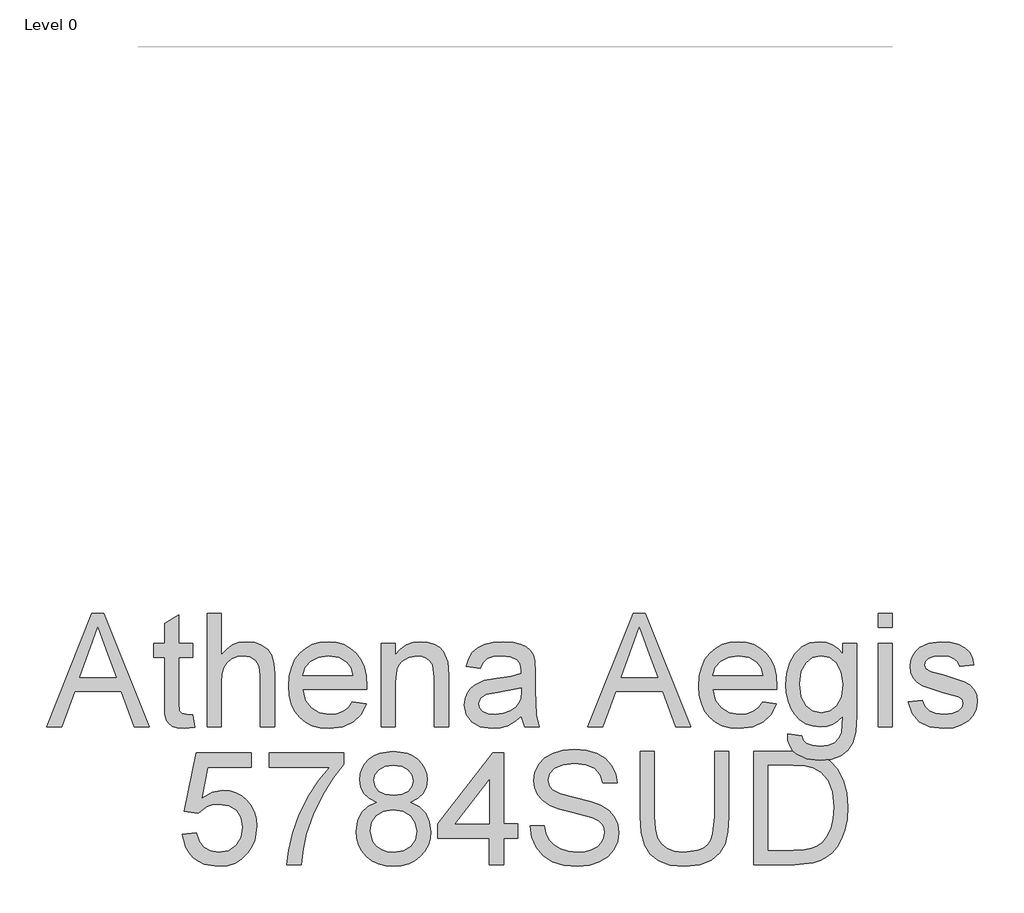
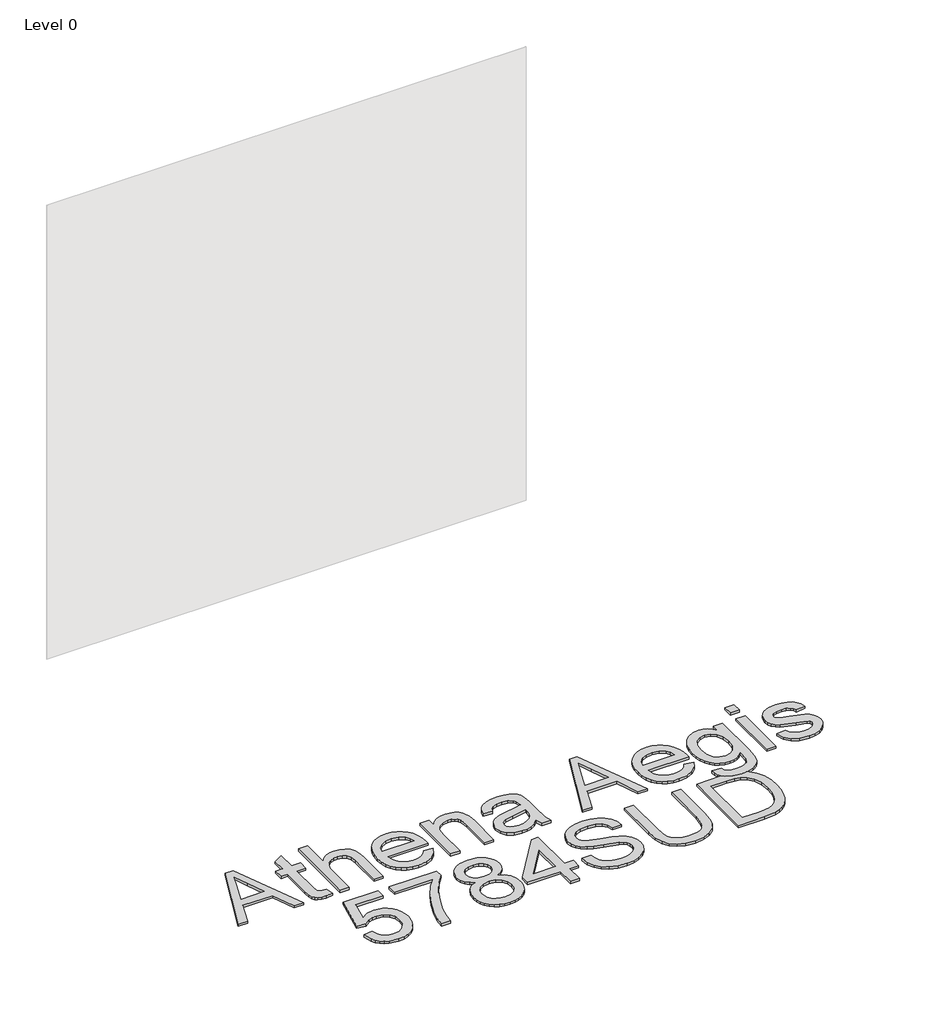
# One storey, part 10 of 29: 1 proxy.
"""IFC4 building model written with IfcOpenShell, lengths in millimetres."""

from ifc_helpers import new_model, si_unit, origin, origin_with_axes, place, context, project, spatial, polyline, outline, extrude, element, save

model = new_model("IFC4")

# Units and contexts
model_context = context("Model", 3, world=origin())
ifc_project = project(units=[si_unit("LENGTHUNIT", "METRE", prefix="MILLI")], contexts=[model_context])

# Site, building, storey
site = spatial("IfcSite", under=ifc_project)
building = spatial("IfcBuilding", under=site)
storey = spatial("IfcBuildingStorey", under=building, Name="Level 0", Elevation=0.0)

# Proxy
placement = place(None, origin())
element("IfcBuildingElementProxy", 1, Name="300mm Arial", ObjectType="300mm Arial", at=placement, inside=storey, context=model_context, shape_type="SweptSolid", body=[
    extrude(outline(polyline([(-5693.5841652, -7002.860494), (-5573.2867528, -6701.4915635), (-5541.2074428, -6701.4915635), (-5420.9100304, -7002.860494), (-5460.7148623, -7002.860494), (-5495.2221934, -6908.6827032), (-5619.3455786, -6908.6827032), (-5653.7793333, -7002.860494), (-5693.5841652, -7002.860494)]), holes=[polyline([(-5605.5132156, -6871.0115869), (-5508.98098, -6871.0115869), (-5536.1306713, -6796.9201531), (-5557.2470978, -6739.1626798), (-5576.0090796, -6790.44543), (-5605.5132156, -6871.0115869)])]), origin_with_axes(), (0.0, 0.0, 1.0), 10.0),
    extrude(outline(polyline([(-5305.3215075, -6971.4433716), (-5300.612618, -7003.96414), (-5328.7923788, -7007.5693835), (-5346.8737789, -7006.005885), (-5360.356654, -7001.3153896), (-5369.8847977, -6994.0865084), (-5376.1020034, -6984.9078526), (-5379.5233059, -6969.1441091), (-5380.6637401, -6942.1599648), (-5380.6637401, -6819.213802), (-5408.9170773, -6819.213802), (-5408.9170773, -6781.5426857), (-5380.6637401, -6781.5426857), (-5380.6637401, -6727.758338), (-5342.9926238, -6705.6118419), (-5342.9926238, -6781.5426857), (-5305.3215075, -6781.5426857), (-5305.3215075, -6819.213802), (-5342.9926238, -6819.213802), (-5342.9926238, -6941.0563188), (-5341.006061, -6960.4804881), (-5334.5681261, -6967.3598814), (-5321.7290445, -6969.8982672), (-5305.3215075, -6971.4433716)])), origin_with_axes(), (0.0, 0.0, 1.0), 10.0),
    extrude(outline(polyline([(-5267.6503912, -7002.860494), (-5267.6503912, -6701.4915635), (-5229.9792749, -6701.4915635), (-5229.9792749, -6812.2976205), (-5216.1423133, -6796.7821973), (-5200.6038976, -6785.6997522), (-5183.3640276, -6779.0502852), (-5164.4227033, -6776.8337961), (-5141.6692019, -6779.2526203), (-5122.1162739, -6786.5090926), (-5106.7204124, -6798.0329961), (-5096.4381106, -6813.2541137), (-5090.6439692, -6834.1682051), (-5088.7125887, -6862.7710302), (-5088.7125887, -7002.860494), (-5126.383705, -7002.860494), (-5126.383705, -6866.6705794), (-5129.3819433, -6843.0893435), (-5138.3766581, -6826.9393239), (-5152.8712087, -6817.6135153), (-5172.3689544, -6814.5049125), (-5188.2890478, -6816.6018398), (-5203.2342538, -6822.8926219), (-5215.613483, -6832.7702535), (-5223.8356456, -6845.6277292), (-5228.4433676, -6862.7158479), (-5229.9792749, -6885.2854083), (-5229.9792749, -7002.860494), (-5267.6503912, -7002.860494)])), origin_with_axes(), (0.0, 0.0, 1.0), 10.0),
    extrude(outline(polyline([(-4881.9629075, -6936.9360404), (-4845.0275551, -6941.64493), (-4858.3356863, -6969.4752029), (-4879.5716745, -6990.2789297), (-4908.2572731, -7003.2467701), (-4943.9142354, -7007.5693835), (-4967.2885377, -7005.7046817), (-4988.1152572, -7000.1105761), (-5006.3943938, -6990.7870668), (-5022.1259476, -6977.7341537), (-5034.7764897, -6961.3151204), (-5043.8125912, -6941.8932503), (-5049.2342521, -6919.4685435), (-5051.0414724, -6894.0409998), (-5049.215858, -6867.7512327), (-5043.7390148, -6844.5792656), (-5034.6109428, -6824.5250983), (-5021.831642, -6807.5887309), (-5006.1414749, -6794.133447), (-4988.2808041, -6784.5225298), (-4968.2496294, -6778.7559796), (-4946.047951, -6776.8337961), (-4924.5613432, -6778.751381), (-4905.1302761, -6784.5041357), (-4887.7547496, -6794.0920602), (-4872.4347638, -6807.5151545), (-4859.9290752, -6824.4147337), (-4850.9964405, -6844.4321128), (-4845.6368597, -6867.5672917), (-4843.8503328, -6893.8202706), (-4844.0710619, -6903.9738137), (-5013.3703561, -6903.9738137), (-5006.8496478, -6932.1719686), (-4991.7021066, -6952.902119), (-4969.8407191, -6965.6492302), (-4943.1784715, -6969.8982672), (-4923.1289027, -6967.9300985), (-4906.2431191, -6962.0255925), (-4892.5211207, -6951.8168672), (-4881.9629075, -6936.9360404)]), holes=[polyline([(-5013.3703561, -6866.3026974), (-4881.5214491, -6866.3026974), (-4886.6166147, -6846.4002814), (-4896.6046109, -6832.1632482), (-4918.567166, -6818.9194964), (-4946.1951038, -6814.5049125), (-4971.5881585, -6818.0273826), (-4992.5850234, -6828.5947929), (-5007.1807416, -6845.0667092), (-5013.3703561, -6866.3026974)])]), origin_with_axes(), (0.0, 0.0, 1.0), 10.0),
    extrude(outline(polyline([(-4806.1792164, -7002.860494), (-4806.1792164, -6781.5426857), (-4768.5081001, -6781.5426857), (-4768.5081001, -6812.4447733), (-4755.4206982, -6796.8649708), (-4739.7029399, -6785.7365404), (-4721.3548254, -6779.0594822), (-4700.3763546, -6776.8337961), (-4681.8075109, -6778.6272209), (-4664.8021657, -6784.0074951), (-4650.6203148, -6792.303234), (-4640.521954, -6802.8430532), (-4629.2279768, -6830.5445674), (-4627.241414, -6866.964885), (-4627.241414, -7002.860494), (-4664.9125303, -7002.860494), (-4664.9125303, -6872.0416565), (-4669.2535378, -6838.7115477), (-4675.2592114, -6828.7879309), (-4684.594217, -6821.0900002), (-4696.5595789, -6816.1511844), (-4710.4563213, -6814.5049125), (-4732.520044, -6818.2021265), (-4751.328011, -6829.2937687), (-4758.8443, -6838.3482643), (-4764.2130778, -6850.7228949), (-4768.5081001, -6885.4325611), (-4768.5081001, -7002.860494), (-4806.1792164, -7002.860494)])), origin_with_axes(), (0.0, 0.0, 1.0), 10.0),
    extrude(outline(polyline([(-4434.1769429, -6974.6071568), (-4452.1755695, -6990.0398064), (-4470.707625, -7000.1381672), (-4490.1961737, -7005.7115794), (-4511.0642799, -7007.5693835), (-4542.5457817, -7003.0996173), (-4565.7683326, -6989.6903186), (-4580.0881393, -6969.3280501), (-4584.8614081, -6943.9993748), (-4583.0587864, -6928.3827841), (-4577.650921, -6914.2009331), (-4569.3091968, -6902.0608273), (-4558.7049983, -6892.5694718), (-4532.3278592, -6880.2086368), (-4499.7335145, -6874.5432541), (-4461.2162696, -6868.5835657), (-4434.3976721, -6861.5938078), (-4434.1769429, -6853.2060983), (-4436.770511, -6836.3938912), (-4444.5512152, -6825.3942195), (-4461.9520336, -6817.2272392), (-4486.195457, -6814.5049125), (-4508.6362587, -6816.3167313), (-4524.3080317, -6821.7521878), (-4534.9950037, -6831.8045633), (-4542.4814023, -6847.4671392), (-4580.1525186, -6842.7582497), (-4573.6134161, -6822.156858), (-4563.8553462, -6805.9700502), (-4549.9678009, -6793.590821), (-4531.0402723, -6784.4121652), (-4507.8912977, -6778.7283884), (-4481.3394147, -6776.8337961), (-4455.8727836, -6778.5076592), (-4435.6852591, -6783.5292485), (-4420.4641416, -6791.0800264), (-4409.8967312, -6800.3414556), (-4402.8885792, -6811.7917827), (-4398.3452366, -6825.9092543), (-4396.5058266, -6858.8714811), (-4396.5058266, -6905.7396473), (-4394.5928402, -6971.1858542), (-4387.0880475, -7002.860494), (-4424.7591638, -7002.860494), (-4434.1769429, -6974.6071568)]), holes=[polyline([(-4434.1769429, -6899.2649241), (-4494.9510485, -6910.8164188), (-4527.3614523, -6916.9232599), (-4542.0399439, -6926.8560738), (-4547.1902918, -6941.3506244), (-4544.3851916, -6952.5526311), (-4535.969891, -6961.7312869), (-4522.1283309, -6967.8565221), (-4503.0444524, -6969.8982672), (-4482.8109427, -6967.64499), (-4464.9318777, -6960.8851583), (-4450.4373271, -6950.9247533), (-4440.3573604, -6939.069756), (-4435.8875942, -6926.8560738), (-4434.3976721, -6909.933502), (-4434.1769429, -6899.2649241)])]), origin_with_axes(), (0.0, 0.0, 1.0), 10.0),
    extrude(outline(polyline([(-4257.372856, -7002.860494), (-4137.0754436, -6701.4915635), (-4104.9961336, -6701.4915635), (-3984.6987212, -7002.860494), (-4024.5035531, -7002.860494), (-4059.0108842, -6908.6827032), (-4183.1342694, -6908.6827032), (-4217.5680242, -7002.860494), (-4257.372856, -7002.860494)]), holes=[polyline([(-4169.3019064, -6871.0115869), (-4072.7696709, -6871.0115869), (-4099.9193621, -6796.9201531), (-4121.0357886, -6739.1626798), (-4139.7977704, -6790.44543), (-4169.3019064, -6871.0115869)])]), origin_with_axes(), (0.0, 0.0, 1.0), 10.0),
    extrude(outline(polyline([(-3794.2094241, -6936.9360404), (-3757.2740718, -6941.64493), (-3770.582203, -6969.4752029), (-3791.8181911, -6990.2789297), (-3820.5037897, -7003.2467701), (-3856.1607521, -7007.5693835), (-3879.5350544, -7005.7046817), (-3900.3617738, -7000.1105761), (-3918.6409105, -6990.7870668), (-3934.3724643, -6977.7341537), (-3947.0230064, -6961.3151204), (-3956.0591079, -6941.8932503), (-3961.4807688, -6919.4685435), (-3963.2879891, -6894.0409998), (-3961.4623747, -6867.7512327), (-3955.9855315, -6844.5792656), (-3946.8574595, -6824.5250983), (-3934.0781587, -6807.5887309), (-3918.3879916, -6794.133447), (-3900.5273207, -6784.5225298), (-3880.4961461, -6778.7559796), (-3858.2944677, -6776.8337961), (-3836.8078599, -6778.751381), (-3817.3767928, -6784.5041357), (-3800.0012663, -6794.0920602), (-3784.6812804, -6807.5151545), (-3772.1755919, -6824.4147337), (-3763.2429572, -6844.4321128), (-3757.8833764, -6867.5672917), (-3756.0968494, -6893.8202706), (-3756.3175786, -6903.9738137), (-3925.6168728, -6903.9738137), (-3919.0961644, -6932.1719686), (-3903.9486233, -6952.902119), (-3882.0872357, -6965.6492302), (-3855.4249881, -6969.8982672), (-3835.3754194, -6967.9300985), (-3818.4896358, -6962.0255925), (-3804.7676374, -6951.8168672), (-3794.2094241, -6936.9360404)]), holes=[polyline([(-3925.6168728, -6866.3026974), (-3793.7679657, -6866.3026974), (-3798.8631314, -6846.4002814), (-3808.8511275, -6832.1632482), (-3830.8136826, -6818.9194964), (-3858.4416205, -6814.5049125), (-3883.8346752, -6818.0273826), (-3904.8315401, -6828.5947929), (-3919.4272582, -6845.0667092), (-3925.6168728, -6866.3026974)])]), origin_with_axes(), (0.0, 0.0, 1.0), 10.0),
    extrude(outline(polyline([(-3727.8435122, -7021.6960521), (-3690.1723959, -7026.4049417), (-3686.0153293, -7038.1771655), (-3677.9587136, -7046.2705694), (-3662.1213937, -7052.5613515), (-3641.3912433, -7054.6582789), (-3619.2815354, -7052.28544), (-3602.8372102, -7045.1669234), (-3591.4328684, -7033.7625816), (-3584.4431105, -7018.532267), (-3581.8679365, -6974.6071568), (-3594.4035155, -6986.9679918), (-3608.3922284, -6995.7971597), (-3623.8340751, -7001.0946604), (-3640.7290557, -7002.860494), (-3661.3833305, -7000.8049533), (-3679.5681974, -6994.6383314), (-3695.2836563, -6984.3606281), (-3708.5297074, -6969.9718436), (-3719.0396362, -6952.708981), (-3726.5467282, -6933.8090435), (-3731.0509833, -6913.2720311), (-3732.5524017, -6891.0979438), (-3729.8576661, -6860.6832999), (-3721.7734593, -6832.7150712), (-3708.5848897, -6809.0142737), (-3690.5770661, -6791.4019232), (-3668.3661906, -6780.4758279), (-3642.5684657, -6776.8337961), (-3624.9515167, -6778.8939353), (-3608.9624454, -6785.0743528), (-3594.6012521, -6795.3750487), (-3581.8679365, -6809.7960229), (-3581.8679365, -6781.5426857), (-3544.1968202, -6781.5426857), (-3544.1968202, -6972.620594), (-3546.7719942, -7016.7388422), (-3554.4975161, -7045.7923228), (-3567.8056472, -7065.0601423), (-3587.128649, -7079.8214074), (-3612.0434572, -7089.2023982), (-3642.1270073, -7092.3293952), (-3677.1769644, -7087.9240083), (-3704.7773111, -7074.7078476), (-3715.1722767, -7064.7865301), (-3722.4816321, -7052.644125), (-3726.7053773, -7038.2806323), (-3727.8435122, -7021.6960521)]), holes=[polyline([(-3694.8812854, -6888.5227699), (-3690.8621746, -6923.0760863), (-3678.8048422, -6946.8320661), (-3660.6774569, -6960.6000498), (-3638.4481874, -6965.1893777), (-3616.3844647, -6960.6276409), (-3598.1651089, -6946.9424307), (-3585.9422296, -6923.4899535), (-3581.8679365, -6889.6264159), (-3586.0617912, -6856.9676917), (-3598.6433555, -6833.4508352), (-3617.1294257, -6819.2413931), (-3639.0367985, -6814.5049125), (-3660.5486982, -6819.1678167), (-3678.584113, -6833.1565296), (-3690.8069923, -6856.3238983), (-3694.8812854, -6888.5227699)])]), origin_with_axes(), (0.0, 0.0, 1.0), 10.0),
    extrude(outline(polyline([(-3487.6901457, -7002.860494), (-3487.6901457, -6781.5426857), (-3450.0190294, -6781.5426857), (-3450.0190294, -7002.860494), (-3487.6901457, -7002.860494)])), origin_with_axes(), (0.0, 0.0, 1.0), 10.0),
    extrude(outline(polyline([(-3487.6901457, -6739.1626798), (-3487.6901457, -6701.4915635), (-3450.0190294, -6701.4915635), (-3450.0190294, -6739.1626798), (-3487.6901457, -6739.1626798)])), origin_with_axes(), (0.0, 0.0, 1.0), 10.0),
    extrude(outline(polyline([(-3407.6390236, -6936.9360404), (-3369.9679073, -6932.2271509), (-3364.0266131, -6948.3403823), (-3352.5303007, -6960.1861825), (-3335.4053938, -6967.470246), (-3312.578316, -6969.8982672), (-3290.0271497, -6967.6725811), (-3274.1714357, -6960.9955229), (-3264.7904449, -6951.3202265), (-3261.6634479, -6940.0998256), (-3264.808839, -6930.4981055), (-3274.2450121, -6923.1772538), (-3313.0197744, -6912.4350996), (-3369.7471781, -6894.0042116), (-3384.1037729, -6884.7427824), (-3394.5056364, -6872.4831149), (-3400.8240096, -6858.0069584), (-3402.930134, -6842.0960621), (-3401.2378769, -6827.5003439), (-3396.1611053, -6814.0266659), (-3388.1596719, -6802.2084568), (-3377.6934292, -6792.5791455), (-3353.7443113, -6781.4323211), (-3321.3339075, -6776.8337961), (-3296.8145725, -6778.6824032), (-3275.4958109, -6784.2282242), (-3258.3525099, -6792.9286334), (-3246.3595569, -6804.2410048), (-3238.4133058, -6819.0022698), (-3233.4101107, -6838.0493601), (-3271.081227, -6842.7582497), (-3275.8361018, -6830.9032524), (-3285.2446838, -6821.972917), (-3299.3989436, -6816.3719136), (-3318.3908516, -6814.5049125), (-3340.0223129, -6816.2891401), (-3354.4432871, -6821.6418232), (-3362.5550851, -6829.3673451), (-3365.2590177, -6838.2700893), (-3360.7708574, -6849.2329728), (-3346.7177652, -6857.5471059), (-3314.2705732, -6865.5669334), (-3258.9779093, -6883.2988455), (-3244.3729941, -6891.7785255), (-3233.2997461, -6903.3852025), (-3226.3191852, -6918.1556646), (-3223.9923316, -6936.1267001), (-3226.7238554, -6954.7047408), (-3234.9184268, -6972.1791356), (-3248.2633462, -6987.1795239), (-3266.4459138, -6998.3355454), (-3288.4084689, -7005.260924), (-3313.0933508, -7007.5693835), (-3351.0771668, -7003.1180114), (-3378.7970752, -6989.763895), (-3397.3015395, -6967.654187), (-3407.6390236, -6936.9360404)])), origin_with_axes(), (0.0, 0.0, 1.0), 10.0),
    extrude(outline(polyline([(-5333.5748447, -7288.7338254), (-5295.9037284, -7284.0249358), (-5288.9875469, -7306.6404815), (-5276.9210175, -7322.8364863), (-5259.7593224, -7332.5761621), (-5237.557644, -7335.8227207), (-5210.5551055, -7331.3069693), (-5190.3215958, -7317.7597148), (-5177.6848493, -7296.7444558), (-5173.4726004, -7269.8246908), (-5177.4181348, -7244.4776213), (-5189.254738, -7225.0902402), (-5209.0743805, -7212.7845875), (-5236.9690328, -7208.6827032), (-5255.2435709, -7210.3197781), (-5270.0416242, -7215.2310027), (-5291.1948389, -7232.2271509), (-5328.8659552, -7227.5182614), (-5295.9037284, -7072.1249066), (-5149.9281527, -7072.1249066), (-5149.9281527, -7109.7960229), (-5265.4430992, -7109.7960229), (-5281.5563306, -7192.790201), (-5254.6457627, -7176.4562404), (-5226.4476077, -7171.0115869), (-5208.1017925, -7172.6992456), (-5191.2504978, -7177.7622215), (-5175.8937238, -7186.2005148), (-5162.0314704, -7198.0141254), (-5150.5558514, -7212.4810848), (-5142.3589807, -7228.8794248), (-5137.4408583, -7247.2091452), (-5135.8014841, -7267.470246), (-5141.7059901, -7305.1413624), (-5149.0866227, -7321.9351754), (-5159.4195082, -7337.3678251), (-5175.0728871, -7353.1729553), (-5193.3382282, -7364.4623341), (-5214.2155314, -7371.2359613), (-5237.7047968, -7373.4938371), (-5274.7045285, -7367.6904986), (-5290.3831992, -7360.4363255), (-5304.1810733, -7350.2804832), (-5315.6612908, -7337.7288093), (-5324.3869919, -7323.2871418), (-5333.5748447, -7288.7338254)])), origin_with_axes(), (0.0, 0.0, 1.0), 10.0),
    extrude(outline(polyline([(-5102.8392574, -7109.7960229), (-5102.8392574, -7072.1249066), (-4905.0658967, -7072.1249066), (-4905.0658967, -7102.5855358), (-4933.2548546, -7138.2608923), (-4961.167901, -7183.6299393), (-4985.7884035, -7234.5540045), (-5004.0997299, -7286.8944154), (-5013.0760505, -7326.0554538), (-5018.0792457, -7368.7849475), (-5055.750362, -7368.7849475), (-5051.6760689, -7329.9550029), (-5040.7775648, -7283.8042066), (-5023.3491552, -7234.8850983), (-4999.6851459, -7187.7502177), (-4972.0572081, -7145.1402856), (-4942.7370131, -7109.7960229), (-5102.8392574, -7109.7960229)])), origin_with_axes(), (0.0, 0.0, 1.0), 10.0),
    extrude(outline(polyline([(-4817.2156763, -7202.7965913), (-4837.3848067, -7192.8637774), (-4851.5390665, -7179.3992964), (-4859.8991848, -7162.6790597), (-4862.6858909, -7142.9789789), (-4861.1683777, -7127.6153071), (-4856.615838, -7113.5300252), (-4849.0282718, -7100.7231332), (-4838.4056792, -7089.1946312), (-4825.2584964, -7079.6664875), (-4810.0971597, -7072.8606706), (-4773.7320245, -7067.4160171), (-4737.1461601, -7072.9894293), (-4721.8192764, -7079.9561946), (-4708.4697585, -7089.709666), (-4697.6540279, -7101.4634957), (-4689.928506, -7114.4313361), (-4685.2931928, -7128.613187), (-4683.7480885, -7144.0090485), (-4686.4980064, -7163.0745329), (-4694.7477601, -7179.509661), (-4708.5893202, -7192.8913686), (-4728.1146571, -7202.7965913), (-4704.9288943, -7214.7435591), (-4688.0523078, -7232.3375155), (-4677.760809, -7254.732332), (-4674.3303094, -7281.0818799), (-4676.0317636, -7299.8714528), (-4681.1361263, -7317.0975272), (-4689.6433974, -7332.7601031), (-4701.553577, -7346.8591806), (-4716.2412657, -7358.5118428), (-4733.081064, -7366.8351729), (-4752.072972, -7371.829171), (-4773.2169897, -7373.4938371), (-4794.3610074, -7371.8222732), (-4813.3529154, -7366.8075818), (-4830.1927137, -7358.4497627), (-4844.8804023, -7346.748816), (-4856.7905819, -7332.5508703), (-4865.2978531, -7316.702054), (-4870.4022158, -7299.2023674), (-4872.10367, -7280.0518103), (-4868.5352146, -7252.6813898), (-4857.8298486, -7230.1670117), (-4840.5393948, -7213.2812282), (-4817.2156763, -7202.7965913)]), holes=[polyline([(-4825.0147746, -7144.0826249), (-4821.6762455, -7160.52695), (-4811.6606582, -7173.6603373), (-4795.2623182, -7182.268776), (-4772.7755313, -7185.1382555), (-4750.8129762, -7182.2871701), (-4734.6629566, -7173.7339137), (-4724.7301427, -7161.0419848), (-4721.4192048, -7145.774882), (-4724.8405073, -7129.9283651), (-4735.104415, -7116.822569), (-4751.4751638, -7108.0209923), (-4773.2169897, -7105.0871334), (-4795.0967713, -7107.9566129), (-4811.439929, -7116.5650516), (-4821.6210632, -7129.1834041), (-4825.0147746, -7144.0826249)]), polyline([(-4834.4325537, -7278.7274351), (-4828.1417716, -7307.0911369), (-4819.4321653, -7319.2588339), (-4805.8849109, -7328.317928), (-4789.6613149, -7333.9465226), (-4772.9226841, -7335.8227207), (-4747.281309, -7331.8771864), (-4728.0410807, -7320.0405832), (-4716.0113394, -7302.1155329), (-4712.0014257, -7279.9046575), (-4716.1400981, -7257.316703), (-4728.5561155, -7238.9961796), (-4748.2378022, -7226.8560738), (-4774.1734829, -7222.8093718), (-4799.456173, -7226.8008915), (-4818.5032633, -7238.7754504), (-4830.4502311, -7256.7464859), (-4834.4325537, -7278.7274351)])]), origin_with_axes(), (0.0, 0.0, 1.0), 10.0),
    extrude(outline(polyline([(-4518.9369546, -7368.7849475), (-4518.9369546, -7298.1516044), (-4655.4947512, -7298.1516044), (-4655.4947512, -7260.4804881), (-4509.5191755, -7072.1249066), (-4481.2658383, -7072.1249066), (-4481.2658383, -7260.4804881), (-4443.594722, -7260.4804881), (-4443.594722, -7298.1516044), (-4481.2658383, -7298.1516044), (-4481.2658383, -7368.7849475), (-4518.9369546, -7368.7849475)]), holes=[polyline([(-4518.9369546, -7260.4804881), (-4518.9369546, -7144.0826249), (-4609.1416198, -7260.4804881), (-4518.9369546, -7260.4804881)])]), origin_with_axes(), (0.0, 0.0, 1.0), 10.0),
    extrude(outline(polyline([(-4410.6324952, -7265.1893777), (-4372.9613789, -7265.1893777), (-4368.6387655, -7286.0942721), (-4360.8212731, -7302.8972822), (-4348.6259849, -7316.2330045), (-4331.1699843, -7326.7360355), (-4309.8328286, -7333.5510494), (-4285.9940753, -7335.8227207), (-4265.0064074, -7334.1028724), (-4246.6307018, -7328.9433274), (-4231.740678, -7320.7763471), (-4221.2100559, -7310.0341929), (-4214.9468649, -7297.700949), (-4212.8591346, -7284.7606998), (-4214.4226331, -7272.1515444), (-4219.1131285, -7261.2530403), (-4228.6412722, -7251.9548229), (-4244.7177154, -7244.1465276), (-4299.5689209, -7229.7623415), (-4335.5753712, -7220.2433949), (-4358.6139811, -7211.1843008), (-4377.3667658, -7198.510766), (-4390.6565029, -7183.1516928), (-4398.5751628, -7165.4381747), (-4401.2147162, -7145.7013056), (-4397.9497634, -7123.637583), (-4388.1549053, -7103.0637824), (-4372.0876592, -7085.6261758), (-4350.0055424, -7072.9710352), (-4323.4996447, -7065.2731044), (-4294.1610556, -7062.7071275), (-4262.3760512, -7065.3926661), (-4234.5641723, -7073.4492818), (-4211.7187004, -7086.7114277), (-4194.8329169, -7105.013557), (-4184.1459449, -7127.2152354), (-4179.8969079, -7152.1760288), (-4217.5680242, -7152.1760288), (-4224.4842057, -7129.6984389), (-4238.9051799, -7113.4748429), (-4261.4379521, -7103.6523936), (-4292.6895276, -7100.3782438), (-4324.6768671, -7103.6156054), (-4346.6210281, -7113.3276901), (-4359.3129569, -7127.6199056), (-4363.5435998, -7144.5976597), (-4360.5453616, -7159.0738162), (-4351.5506468, -7170.7172813), (-4330.2870675, -7181.1283418), (-4290.0407772, -7191.7601314), (-4248.5069, -7201.8584922), (-4223.3805597, -7210.669266), (-4201.9054482, -7224.3360821), (-4186.923454, -7241.2034716), (-4178.1218772, -7261.0874934), (-4175.1880183, -7283.8042066), (-4178.5633356, -7307.0267576), (-4188.6892875, -7328.869751), (-4205.1520068, -7347.668521), (-4227.5376262, -7361.7584014), (-4254.4573912, -7370.5599781), (-4284.5225473, -7373.4938371), (-4321.4303085, -7370.3300519), (-4351.8081642, -7360.8386964), (-4376.0056024, -7344.9829824), (-4394.372111, -7322.7261217), (-4406.162729, -7295.6132187), (-4410.6324952, -7265.1893777)])), origin_with_axes(), (0.0, 0.0, 1.0), 10.0),
    extrude(outline(polyline([(-3920.9079833, -7067.4160171), (-3883.2368669, -7067.4160171), (-3883.2368669, -7241.277048), (-3885.7936468, -7281.9923878), (-3893.4639864, -7313.3451308), (-3907.7929901, -7337.533372), (-3930.3257623, -7356.7552063), (-3961.1174853, -7369.3091794), (-4000.2233414, -7373.4938371), (-4038.4738719, -7369.8518053), (-4069.0540627, -7358.92571), (-4091.973111, -7341.0926303), (-4107.2402138, -7316.7296452), (-4115.8210613, -7284.052527), (-4118.6813439, -7241.277048), (-4118.6813439, -7067.4160171), (-4081.0102276, -7067.4160171), (-4081.0102276, -7239.9526728), (-4079.1524235, -7273.8070134), (-4073.5790113, -7297.3790523), (-4063.4806505, -7313.7038158), (-4048.0480008, -7325.8163305), (-4027.9248556, -7333.3211232), (-4003.7550086, -7335.8227207), (-3965.4400988, -7330.8747079), (-3951.0972995, -7324.6896919), (-3939.9642706, -7316.0306694), (-3931.6271449, -7303.8537754), (-3925.6720551, -7287.1151446), (-3920.9079833, -7239.9526728), (-3920.9079833, -7067.4160171)])), origin_with_axes(), (0.0, 0.0, 1.0), 10.0),
    extrude(outline(polyline([(-3817.3124134, -7368.7849475), (-3817.3124134, -7067.4160171), (-3713.3489616, -7067.4160171), (-3659.5646139, -7071.7570246), (-3635.5419196, -7080.12634), (-3615.2716217, -7093.3149095), (-3594.4311066, -7116.270746), (-3579.5870681, -7144.8183889), (-3570.7027179, -7178.406015), (-3567.7412679, -7216.4818015), (-3569.7462248, -7248.8278259), (-3575.7610954, -7277.2926953), (-3584.9213571, -7301.5269217), (-3596.3624871, -7321.1810173), (-3609.5326625, -7336.6964405), (-3623.8800603, -7348.5146496), (-3640.3519767, -7357.2794381), (-3659.8957077, -7363.6345996), (-3708.3457664, -7368.7849475), (-3817.3124134, -7368.7849475)]), holes=[polyline([(-3779.6412971, -7331.1138312), (-3712.9810796, -7331.1138312), (-3685.408324, -7329.7526678), (-3664.4942326, -7325.6691777), (-3648.712095, -7319.1024841), (-3636.535201, -7310.2917103), (-3623.447799, -7293.9853408), (-3613.6161527, -7272.8781114), (-3607.4633263, -7246.8780514), (-3605.4123842, -7215.8931903), (-3609.431495, -7174.8375597), (-3621.4888274, -7144.5240833), (-3639.303513, -7123.7019623), (-3660.5946835, -7111.1203981), (-3682.262933, -7106.5954496), (-3714.0111492, -7105.0871334), (-3779.6412971, -7105.0871334), (-3779.6412971, -7331.1138312)])]), origin_with_axes(), (0.0, 0.0, 1.0), 10.0),
])

save(model, "model.ifc")
